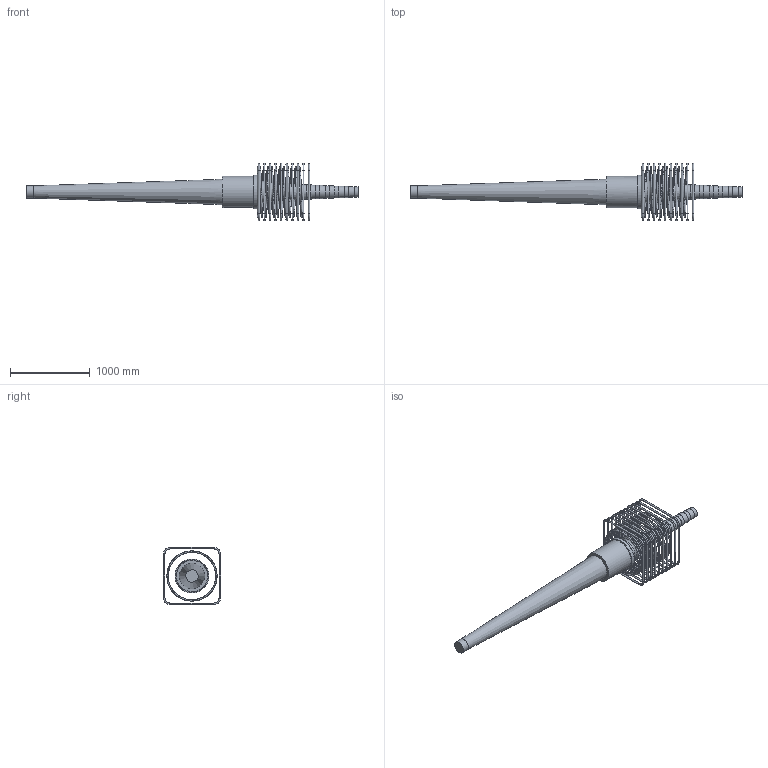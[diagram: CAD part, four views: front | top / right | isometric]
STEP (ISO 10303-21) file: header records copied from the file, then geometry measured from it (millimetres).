
FILE_DESCRIPTION(/* description */ (''),/* implementation_level */ '2;1');
FILE_NAME(/* name */ 'Z:\04 Publications\05 Give-out\BBR\6_3D_Models\BBR VT CONA CMI\BBR VT CONA CMI BT\04206\BBR VT CONA CMI BT 4206_Coupler H Assembly_CS-34,28.stp',/* time_stamp */ '2017-05-05T10:58:53+02:00',/* author */ ('IP'),/* organization */ (''),/* preprocessor_version */ 'ST-DEVELOPER v16.1',/* originating_system */ 'Autodesk Inventor 2016',/* authorisation */ '');
FILE_SCHEMA (('AUTOMOTIVE_DESIGN { 1 0 10303 214 3 1 1 }'));
Length unit declared in the file: millimetre
Products named in the file (1): BBR VT CONA CMI BT 4206_Coupler H Assembly_CS-34,28
Bounding box: 4172.2 x 720 x 720 mm (x, y, z)
Volume: 218194139 mm3; surface area: 6283487.4 mm2
Topology: 12 solids, 12 shells, 883 faces, 2287 edges, 1473 vertices
Faces by surface type: bspline 393, plane 270, cylinder 128, torus 78, cone 12, sphere 2
Full cylindrical faces by diameter (mm): 20 x40, 35 x1, 57 x1, 129 x1, 139 x1, 149 x1, 155 x1, 159 x1, 169 x1, 179 x1, 251 x1, 333 x1, 348 x1, 395 x1, 425 x1
Entity records: 41490 total; most frequent: CARTESIAN_POINT 22601, ORIENTED_EDGE 4286, DIRECTION 2753, EDGE_CURVE 2143, VERTEX_POINT 1465, EDGE_LOOP 1086, AXIS2_PLACEMENT_3D 918, LINE 917
